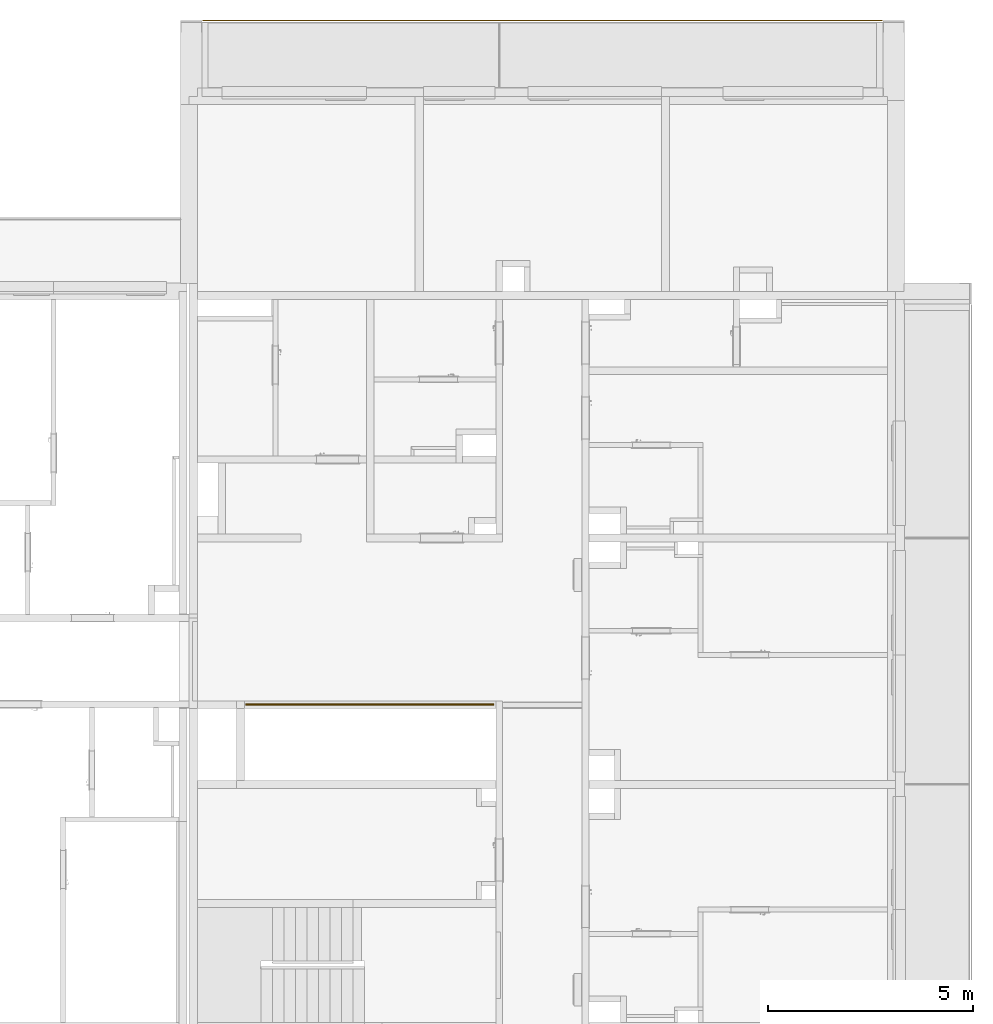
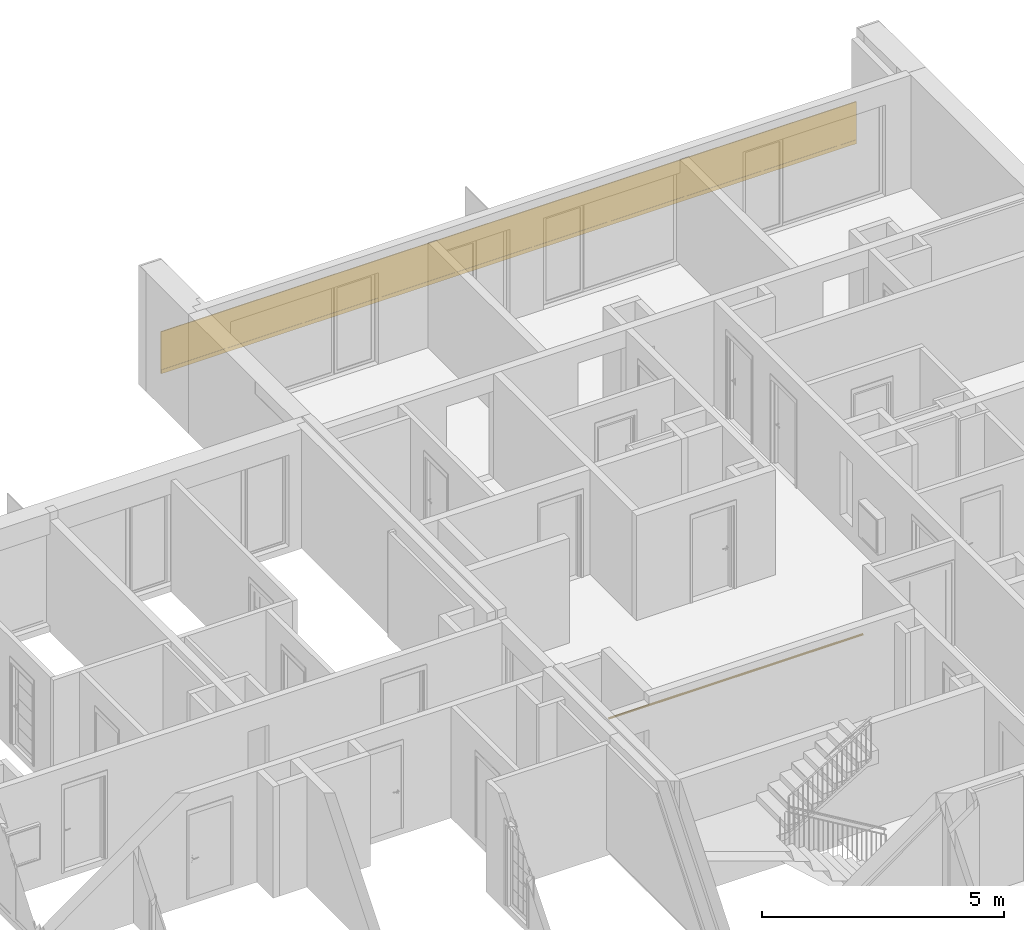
# One storey, part 7 of 64: 2 railings.
"""IFC2X3 building model written with IfcOpenShell, lengths in millimetres."""

from ifc_helpers import new_model, entity, si_unit, converted_unit, derived_unit, money_unit, direction, frame, origin_with_axes, place, context, subcontext, project, spatial, faceted_brep, material, material_list, type_object, element, save


model = new_model("IFC2X3")

# Units and contexts
model_context = context("Model", 3, precision=0.01, world=origin_with_axes(), true_north=direction((0.34421633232, 0.938890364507)))
body_context = subcontext(model_context, "Body", "Model", "MODEL_VIEW")
ifc_project = project(units=[si_unit("LENGTHUNIT", "METRE", prefix="MILLI"), si_unit("AREAUNIT", "SQUARE_METRE"), si_unit("VOLUMEUNIT", "CUBIC_METRE"), converted_unit("PLANEANGLEUNIT", "DEGREE", entity("IfcPlaneAngleMeasure", 0.0174532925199), si_unit("PLANEANGLEUNIT", "RADIAN"), dimensions=[0, 0, 0, 0, 0, 0, 0]), si_unit("SOLIDANGLEUNIT", "STERADIAN"), money_unit("USD"), converted_unit("TIMEUNIT", "Year", entity("IfcTimeMeasure", 31556926.0), si_unit("TIMEUNIT", "SECOND"), dimensions=[0, 0, 1, 0, 0, 0, 0]), si_unit("MASSUNIT", "GRAM", prefix="KILO"), si_unit("THERMODYNAMICTEMPERATUREUNIT", "DEGREE_CELSIUS"), si_unit("LUMINOUSINTENSITYUNIT", "LUMEN"), si_unit("ENERGYUNIT", "JOULE", prefix="MEGA"), derived_unit("THERMALCONDUCTANCEUNIT", [(si_unit("POWERUNIT", "WATT"), 1), (si_unit("LENGTHUNIT", "METRE"), -1), (si_unit("THERMODYNAMICTEMPERATUREUNIT", "KELVIN"), -1)]), derived_unit("SPECIFICHEATCAPACITYUNIT", [(si_unit("ENERGYUNIT", "JOULE"), 1), (si_unit("MASSUNIT", "GRAM", prefix="KILO"), -1), (si_unit("THERMODYNAMICTEMPERATUREUNIT", "KELVIN"), -1)]), derived_unit("MASSDENSITYUNIT", [(si_unit("MASSUNIT", "GRAM", prefix="KILO"), 1), (si_unit("VOLUMEUNIT", "CUBIC_METRE"), -1)])], contexts=[model_context])

# Site, building, storey
site_placement = place(None, origin_with_axes())
site = spatial("IfcSite", under=ifc_project, at=site_placement, Name="USTRONIE MORSKIE", CompositionType="ELEMENT")
building_placement = place(site_placement, origin_with_axes())
building = spatial("IfcBuilding", under=site, at=building_placement, Name="Budynek", CompositionType="ELEMENT")
storey_placement = place(building_placement, frame((0.0, 0.0, 7000.0), z_axis=(0.0, 0.0, 1.0), x_axis=(1.0, 0.0, 0.0)))
storey = spatial("IfcBuildingStorey", under=building, at=storey_placement, Name="PIĘTRO 2", CompositionType="ELEMENT", Elevation=7000.0)

# Railings
ifc_material_1 = material(Name="Szkło struktualne")
ifc_material_2 = material(Name="Profile aluminiowe")
ifc_material_list_1 = material_list([ifc_material_1, ifc_material_2])
railing_type = type_object("IfcRailingType", Name="Typ balustrady", PredefinedType="NOTDEFINED")
railing_1_placement = place(storey_placement, frame((409067.920919, 751396.199036, 30.0), z_axis=(0.0, 0.0, 1.0), x_axis=(1.0, 0.0, 0.0)))
element("IfcRailing", 1, at=railing_1_placement, inside=storey, type_object=railing_type, material=ifc_material_list_1, Name="BL1", PredefinedType="NOTDEFINED", context=body_context, shape_type="Brep", body=[
    faceted_brep([(16280.0, 9.99999999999, -100.0), (-280.0, 9.99999999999, -100.0), (-280.0, 9.99999999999, 950.0), (16280.0, 9.99999999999, 950.0), (-280.0, -9.99999999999, -100.0), (16280.0, -9.99999999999, -100.0), (-280.0, -9.99999999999, 950.0), (16280.0, -9.99999999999, 950.0)], [[[0, 1, 2, 3]], [[4, 1, 0, 5]], [[6, 2, 1, 4]], [[3, 2, 6, 7]], [[0, 3, 7, 5]], [[6, 4, 5, 7]]]),
    faceted_brep([(16280.0, -15.0, -5.0), (-280.0, -15.0, -5.0), (-280.0, -15.0, -105.0), (16280.0, -15.0, -105.0), (16280.0, -9.99999999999, -5.0), (-280.0, -9.99999999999, -5.0), (-280.0, -9.99999999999, -100.0), (-280.0, 9.99999999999, -100.0), (-280.0, 9.99999999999, -5.0), (-280.0, 15.0, -5.0), (-280.0, 15.0, -105.0), (16280.0, 15.0, -105.0), (16280.0, 15.0, -5.0), (16280.0, 9.99999999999, -5.0), (16280.0, 9.99999999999, -100.0), (16280.0, -9.99999999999, -100.0)], [[[0, 1, 2, 3]], [[1, 0, 4, 5]], [[6, 7, 8, 9, 10, 2, 1, 5]], [[10, 11, 3, 2]], [[11, 12, 13, 14, 15, 4, 0, 3]], [[15, 6, 5, 4]], [[7, 6, 15, 14]], [[8, 7, 14, 13]], [[9, 8, 13, 12]], [[11, 10, 9, 12]]]),
])
ifc_material_3 = material(Name="Stal nierdzewna")
ifc_material_list_2 = material_list([ifc_material_3, ifc_material_3, ifc_material_3])
railing_2_placement = place(storey_placement, frame((409867.915713, 734741.198985, 0.0), z_axis=(0.0, 0.0, 1.0), x_axis=(1.0, 0.0, 0.0)))
element("IfcRailing", 2, at=railing_2_placement, inside=storey, type_object=railing_type, material=ifc_material_list_2, Name="BL1", PredefinedType="NOTDEFINED", context=body_context, shape_type="Brep", body=[
    faceted_brep([(20.0, -25.0, 975.0), (20.0, -24.6201938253, 979.341204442), (-30.0, -24.6201938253, 979.341204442), (-30.0, -25.0, 975.0), (20.0, -24.6201938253, 970.658795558), (20.0, -23.4923155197, 966.449496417), (20.0, -21.6506350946, 962.5), (20.0, -19.151111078, 958.930309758), (20.0, -16.0696902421, 955.848888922), (20.0, -12.5, 953.349364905), (20.0, -8.55050358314, 951.50768448), (20.0, -4.34120444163, 950.379806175), (20.0, 0.0, 950.0), (20.0, 4.34120444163, 950.379806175), (20.0, 8.55050358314, 951.50768448), (20.0, 12.5, 953.349364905), (20.0, 16.0696902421, 955.848888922), (20.0, 19.151111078, 958.930309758), (20.0, 21.6506350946, 962.5), (20.0, 23.4923155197, 966.449496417), (20.0, 24.6201938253, 970.658795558), (20.0, 25.0, 975.0), (20.0, 24.6201938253, 979.341204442), (20.0, 23.4923155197, 983.550503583), (20.0, 21.6506350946, 987.5), (20.0, 19.151111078, 991.069690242), (20.0, 16.0696902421, 994.151111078), (20.0, 12.5, 996.650635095), (20.0, 8.55050358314, 998.49231552), (20.0, 4.34120444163, 999.620193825), (20.0, 0.0, 1000.0), (20.0, -4.34120444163, 999.620193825), (20.0, -8.55050358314, 998.49231552), (20.0, -12.5, 996.650635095), (20.0, -16.0696902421, 994.151111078), (20.0, -19.151111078, 991.069690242), (20.0, -21.6506350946, 987.5), (20.0, -23.4923155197, 983.550503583), (20.0, -15.0, 975.0), (20.0, -14.7721162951, 977.604722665), (20.0, -14.0953893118, 980.13030215), (20.0, -12.9903810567, 982.5), (20.0, -11.4906666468, 984.641814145), (20.0, -9.64181414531, 986.490666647), (20.0, -7.50000000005, 987.990381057), (20.0, -5.13030214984, 989.095389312), (20.0, -2.60472266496, 989.772116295), (20.0, 0.0, 990.0), (20.0, 2.60472266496, 989.772116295), (20.0, 5.13030214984, 989.095389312), (20.0, 7.50000000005, 987.990381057), (20.0, 9.64181414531, 986.490666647), (20.0, 11.4906666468, 984.641814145), (20.0, 12.9903810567, 982.5), (20.0, 14.0953893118, 980.13030215), (20.0, 14.7721162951, 977.604722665), (20.0, 15.0, 975.0), (20.0, 14.7721162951, 972.395277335), (20.0, 14.0953893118, 969.86969785), (20.0, 12.9903810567, 967.5), (20.0, 11.4906666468, 965.358185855), (20.0, 9.64181414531, 963.509333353), (20.0, 7.50000000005, 962.009618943), (20.0, 5.13030214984, 960.904610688), (20.0, 2.60472266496, 960.227883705), (20.0, 0.0, 960.0), (20.0, -2.60472266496, 960.227883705), (20.0, -5.13030214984, 960.904610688), (20.0, -7.50000000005, 962.009618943), (20.0, -9.64181414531, 963.509333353), (20.0, -11.4906666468, 965.358185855), (20.0, -12.9903810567, 967.5), (20.0, -14.0953893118, 969.86969785), (20.0, -14.7721162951, 972.395277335), (-30.0, -23.4923155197, 983.550503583), (-30.0, -21.6506350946, 987.5), (-30.0, -19.151111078, 991.069690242), (-30.0, -16.0696902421, 994.151111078), (-30.0, -12.5, 996.650635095), (-30.0, -8.55050358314, 998.49231552), (-30.0, -4.34120444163, 999.620193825), (-30.0, 0.0, 1000.0), (-30.0, 4.34120444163, 999.620193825), (-30.0, 8.55050358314, 998.49231552), (-30.0, 12.5, 996.650635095), (-30.0, 16.0696902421, 994.151111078), (-30.0, 19.151111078, 991.069690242), (-30.0, 21.6506350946, 987.5), (-30.0, 23.4923155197, 983.550503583), (-30.0, 24.6201938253, 979.341204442), (-30.0, 25.0, 975.0), (-30.0, 24.6201938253, 970.658795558), (-30.0, 23.4923155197, 966.449496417), (-30.0, 21.6506350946, 962.5), (-30.0, 19.151111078, 958.930309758), (-30.0, 16.0696902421, 955.848888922), (-30.0, 12.5, 953.349364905), (-30.0, 8.55050358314, 951.50768448), (-30.0, 4.34120444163, 950.379806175), (-30.0, 0.0, 950.0), (-30.0, -4.34120444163, 950.379806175), (-30.0, -8.55050358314, 951.50768448), (-30.0, -12.5, 953.349364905), (-30.0, -16.0696902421, 955.848888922), (-30.0, -19.151111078, 958.930309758), (-30.0, -21.6506350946, 962.5), (-30.0, -23.4923155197, 966.449496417), (-30.0, -24.6201938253, 970.658795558), (-30.0, -15.0, 975.0), (-30.0, -14.7721162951, 972.395277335), (-30.0, -14.0953893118, 969.86969785), (-30.0, -12.9903810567, 967.5), (-30.0, -11.4906666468, 965.358185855), (-30.0, -9.64181414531, 963.509333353), (-30.0, -7.50000000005, 962.009618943), (-30.0, -5.13030214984, 960.904610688), (-30.0, -2.60472266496, 960.227883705), (-30.0, 0.0, 960.0), (-30.0, 2.60472266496, 960.227883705), (-30.0, 5.13030214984, 960.904610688), (-30.0, 7.50000000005, 962.009618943), (-30.0, 9.64181414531, 963.509333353), (-30.0, 11.4906666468, 965.358185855), (-30.0, 12.9903810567, 967.5), (-30.0, 14.0953893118, 969.86969785), (-30.0, 14.7721162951, 972.395277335), (-30.0, 15.0, 975.0), (-30.0, 14.7721162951, 977.604722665), (-30.0, 14.0953893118, 980.13030215), (-30.0, 12.9903810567, 982.5), (-30.0, 11.4906666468, 984.641814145), (-30.0, 9.64181414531, 986.490666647), (-30.0, 7.50000000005, 987.990381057), (-30.0, 5.13030214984, 989.095389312), (-30.0, 2.60472266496, 989.772116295), (-30.0, 0.0, 990.0), (-30.0, -2.60472266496, 989.772116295), (-30.0, -5.13030214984, 989.095389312), (-30.0, -7.50000000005, 987.990381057), (-30.0, -9.64181414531, 986.490666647), (-30.0, -11.4906666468, 984.641814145), (-30.0, -12.9903810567, 982.5), (-30.0, -14.0953893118, 980.13030215), (-30.0, -14.7721162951, 977.604722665)], [[[0, 1, 2, 3]], [[0, 4, 5, 6, 7, 8, 9, 10, 11, 12, 13, 14, 15, 16, 17, 18, 19, 20, 21, 22, 23, 24, 25, 26, 27, 28, 29, 30, 31, 32, 33, 34, 35, 36, 37, 1], [38, 39, 40, 41, 42, 43, 44, 45, 46, 47, 48, 49, 50, 51, 52, 53, 54, 55, 56, 57, 58, 59, 60, 61, 62, 63, 64, 65, 66, 67, 68, 69, 70, 71, 72, 73]], [[1, 37, 74, 2]], [[3, 2, 74, 75, 76, 77, 78, 79, 80, 81, 82, 83, 84, 85, 86, 87, 88, 89, 90, 91, 92, 93, 94, 95, 96, 97, 98, 99, 100, 101, 102, 103, 104, 105, 106, 107], [108, 109, 110, 111, 112, 113, 114, 115, 116, 117, 118, 119, 120, 121, 122, 123, 124, 125, 126, 127, 128, 129, 130, 131, 132, 133, 134, 135, 136, 137, 138, 139, 140, 141, 142, 143]], [[4, 0, 3, 107]], [[5, 4, 107, 106]], [[6, 5, 106, 105]], [[7, 6, 105, 104]], [[8, 7, 104, 103]], [[9, 8, 103, 102]], [[10, 9, 102, 101]], [[11, 10, 101, 100]], [[12, 11, 100, 99]], [[13, 12, 99, 98]], [[14, 13, 98, 97]], [[15, 14, 97, 96]], [[16, 15, 96, 95]], [[17, 16, 95, 94]], [[18, 17, 94, 93]], [[19, 18, 93, 92]], [[20, 19, 92, 91]], [[21, 20, 91, 90]], [[22, 21, 90, 89]], [[23, 22, 89, 88]], [[24, 23, 88, 87]], [[25, 24, 87, 86]], [[26, 25, 86, 85]], [[27, 26, 85, 84]], [[28, 27, 84, 83]], [[29, 28, 83, 82]], [[30, 29, 82, 81]], [[31, 30, 81, 80]], [[32, 31, 80, 79]], [[33, 32, 79, 78]], [[34, 33, 78, 77]], [[35, 34, 77, 76]], [[36, 35, 76, 75]], [[37, 36, 75, 74]], [[39, 38, 108, 143]], [[40, 39, 143, 142]], [[41, 40, 142, 141]], [[42, 41, 141, 140]], [[43, 42, 140, 139]], [[44, 43, 139, 138]], [[45, 44, 138, 137]], [[46, 45, 137, 136]], [[47, 46, 136, 135]], [[48, 47, 135, 134]], [[49, 48, 134, 133]], [[50, 49, 133, 132]], [[51, 50, 132, 131]], [[52, 51, 131, 130]], [[53, 52, 130, 129]], [[54, 53, 129, 128]], [[55, 54, 128, 127]], [[56, 55, 127, 126]], [[57, 56, 126, 125]], [[58, 57, 125, 124]], [[59, 58, 124, 123]], [[60, 59, 123, 122]], [[61, 60, 122, 121]], [[62, 61, 121, 120]], [[63, 62, 120, 119]], [[64, 63, 119, 118]], [[65, 64, 118, 117]], [[66, 65, 117, 116]], [[67, 66, 116, 115]], [[68, 67, 115, 114]], [[69, 68, 114, 113]], [[70, 69, 113, 112]], [[71, 70, 112, 111]], [[72, 71, 111, 110]], [[73, 72, 110, 109]], [[38, 73, 109, 108]]]),
    faceted_brep([(5970.00520575, 25.0, 975.0), (5970.00520575, 24.6201938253, 979.341204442), (6020.00520575, 24.6201938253, 979.341204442), (6020.00520575, 25.0, 975.0), (5970.00520575, 24.6201938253, 970.658795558), (5970.00520575, 23.4923155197, 966.449496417), (5970.00520575, 21.6506350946, 962.5), (5970.00520575, 19.151111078, 958.930309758), (5970.00520575, 16.0696902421, 955.848888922), (5970.00520575, 12.5, 953.349364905), (5970.00520575, 8.55050358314, 951.50768448), (5970.00520575, 4.34120444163, 950.379806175), (5970.00520575, 0.0, 950.0), (5970.00520575, -4.34120444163, 950.379806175), (5970.00520575, -8.55050358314, 951.50768448), (5970.00520575, -12.5, 953.349364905), (5970.00520575, -16.0696902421, 955.848888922), (5970.00520575, -19.151111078, 958.930309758), (5970.00520575, -21.6506350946, 962.5), (5970.00520575, -23.4923155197, 966.449496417), (5970.00520575, -24.6201938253, 970.658795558), (5970.00520575, -25.0, 975.0), (5970.00520575, -24.6201938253, 979.341204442), (5970.00520575, -23.4923155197, 983.550503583), (5970.00520575, -21.6506350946, 987.5), (5970.00520575, -19.151111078, 991.069690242), (5970.00520575, -16.0696902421, 994.151111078), (5970.00520575, -12.5, 996.650635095), (5970.00520575, -8.55050358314, 998.49231552), (5970.00520575, -4.34120444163, 999.620193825), (5970.00520575, 0.0, 1000.0), (5970.00520575, 4.34120444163, 999.620193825), (5970.00520575, 8.55050358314, 998.49231552), (5970.00520575, 12.5, 996.650635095), (5970.00520575, 16.0696902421, 994.151111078), (5970.00520575, 19.151111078, 991.069690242), (5970.00520575, 21.6506350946, 987.5), (5970.00520575, 23.4923155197, 983.550503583), (5970.00520575, 15.0, 975.0), (5970.00520575, 14.7721162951, 977.604722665), (5970.00520575, 14.0953893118, 980.13030215), (5970.00520575, 12.9903810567, 982.5), (5970.00520575, 11.4906666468, 984.641814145), (5970.00520575, 9.64181414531, 986.490666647), (5970.00520575, 7.50000000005, 987.990381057), (5970.00520575, 5.13030214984, 989.095389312), (5970.00520575, 2.60472266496, 989.772116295), (5970.00520575, 0.0, 990.0), (5970.00520575, -2.60472266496, 989.772116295), (5970.00520575, -5.13030214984, 989.095389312), (5970.00520575, -7.50000000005, 987.990381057), (5970.00520575, -9.64181414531, 986.490666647), (5970.00520575, -11.4906666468, 984.641814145), (5970.00520575, -12.9903810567, 982.5), (5970.00520575, -14.0953893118, 980.13030215), (5970.00520575, -14.7721162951, 977.604722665), (5970.00520575, -15.0, 975.0), (5970.00520575, -14.7721162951, 972.395277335), (5970.00520575, -14.0953893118, 969.86969785), (5970.00520575, -12.9903810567, 967.5), (5970.00520575, -11.4906666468, 965.358185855), (5970.00520575, -9.64181414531, 963.509333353), (5970.00520575, -7.50000000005, 962.009618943), (5970.00520575, -5.13030214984, 960.904610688), (5970.00520575, -2.60472266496, 960.227883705), (5970.00520575, 0.0, 960.0), (5970.00520575, 2.60472266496, 960.227883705), (5970.00520575, 5.13030214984, 960.904610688), (5970.00520575, 7.50000000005, 962.009618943), (5970.00520575, 9.64181414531, 963.509333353), (5970.00520575, 11.4906666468, 965.358185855), (5970.00520575, 12.9903810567, 967.5), (5970.00520575, 14.0953893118, 969.86969785), (5970.00520575, 14.7721162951, 972.395277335), (6020.00520575, 23.4923155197, 983.550503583), (6020.00520575, 21.6506350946, 987.5), (6020.00520575, 19.151111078, 991.069690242), (6020.00520575, 16.0696902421, 994.151111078), (6020.00520575, 12.5, 996.650635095), (6020.00520575, 8.55050358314, 998.49231552), (6020.00520575, 4.34120444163, 999.620193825), (6020.00520575, 0.0, 1000.0), (6020.00520575, -4.34120444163, 999.620193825), (6020.00520575, -8.55050358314, 998.49231552), (6020.00520575, -12.5, 996.650635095), (6020.00520575, -16.0696902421, 994.151111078), (6020.00520575, -19.151111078, 991.069690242), (6020.00520575, -21.6506350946, 987.5), (6020.00520575, -23.4923155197, 983.550503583), (6020.00520575, -24.6201938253, 979.341204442), (6020.00520575, -25.0, 975.0), (6020.00520575, -24.6201938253, 970.658795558), (6020.00520575, -23.4923155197, 966.449496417), (6020.00520575, -21.6506350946, 962.5), (6020.00520575, -19.151111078, 958.930309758), (6020.00520575, -16.0696902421, 955.848888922), (6020.00520575, -12.5, 953.349364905), (6020.00520575, -8.55050358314, 951.50768448), (6020.00520575, -4.34120444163, 950.379806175), (6020.00520575, 0.0, 950.0), (6020.00520575, 4.34120444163, 950.379806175), (6020.00520575, 8.55050358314, 951.50768448), (6020.00520575, 12.5, 953.349364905), (6020.00520575, 16.0696902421, 955.848888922), (6020.00520575, 19.151111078, 958.930309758), (6020.00520575, 21.6506350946, 962.5), (6020.00520575, 23.4923155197, 966.449496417), (6020.00520575, 24.6201938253, 970.658795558), (6020.00520575, 15.0, 975.0), (6020.00520575, 14.7721162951, 972.395277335), (6020.00520575, 14.0953893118, 969.86969785), (6020.00520575, 12.9903810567, 967.5), (6020.00520575, 11.4906666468, 965.358185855), (6020.00520575, 9.64181414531, 963.509333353), (6020.00520575, 7.50000000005, 962.009618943), (6020.00520575, 5.13030214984, 960.904610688), (6020.00520575, 2.60472266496, 960.227883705), (6020.00520575, 0.0, 960.0), (6020.00520575, -2.60472266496, 960.227883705), (6020.00520575, -5.13030214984, 960.904610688), (6020.00520575, -7.50000000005, 962.009618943), (6020.00520575, -9.64181414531, 963.509333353), (6020.00520575, -11.4906666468, 965.358185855), (6020.00520575, -12.9903810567, 967.5), (6020.00520575, -14.0953893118, 969.86969785), (6020.00520575, -14.7721162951, 972.395277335), (6020.00520575, -15.0, 975.0), (6020.00520575, -14.7721162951, 977.604722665), (6020.00520575, -14.0953893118, 980.13030215), (6020.00520575, -12.9903810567, 982.5), (6020.00520575, -11.4906666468, 984.641814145), (6020.00520575, -9.64181414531, 986.490666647), (6020.00520575, -7.50000000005, 987.990381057), (6020.00520575, -5.13030214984, 989.095389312), (6020.00520575, -2.60472266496, 989.772116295), (6020.00520575, 0.0, 990.0), (6020.00520575, 2.60472266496, 989.772116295), (6020.00520575, 5.13030214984, 989.095389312), (6020.00520575, 7.50000000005, 987.990381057), (6020.00520575, 9.64181414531, 986.490666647), (6020.00520575, 11.4906666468, 984.641814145), (6020.00520575, 12.9903810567, 982.5), (6020.00520575, 14.0953893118, 980.13030215), (6020.00520575, 14.7721162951, 977.604722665)], [[[0, 1, 2, 3]], [[0, 4, 5, 6, 7, 8, 9, 10, 11, 12, 13, 14, 15, 16, 17, 18, 19, 20, 21, 22, 23, 24, 25, 26, 27, 28, 29, 30, 31, 32, 33, 34, 35, 36, 37, 1], [38, 39, 40, 41, 42, 43, 44, 45, 46, 47, 48, 49, 50, 51, 52, 53, 54, 55, 56, 57, 58, 59, 60, 61, 62, 63, 64, 65, 66, 67, 68, 69, 70, 71, 72, 73]], [[1, 37, 74, 2]], [[3, 2, 74, 75, 76, 77, 78, 79, 80, 81, 82, 83, 84, 85, 86, 87, 88, 89, 90, 91, 92, 93, 94, 95, 96, 97, 98, 99, 100, 101, 102, 103, 104, 105, 106, 107], [108, 109, 110, 111, 112, 113, 114, 115, 116, 117, 118, 119, 120, 121, 122, 123, 124, 125, 126, 127, 128, 129, 130, 131, 132, 133, 134, 135, 136, 137, 138, 139, 140, 141, 142, 143]], [[4, 0, 3, 107]], [[5, 4, 107, 106]], [[6, 5, 106, 105]], [[7, 6, 105, 104]], [[8, 7, 104, 103]], [[9, 8, 103, 102]], [[10, 9, 102, 101]], [[11, 10, 101, 100]], [[12, 11, 100, 99]], [[13, 12, 99, 98]], [[14, 13, 98, 97]], [[15, 14, 97, 96]], [[16, 15, 96, 95]], [[17, 16, 95, 94]], [[18, 17, 94, 93]], [[19, 18, 93, 92]], [[20, 19, 92, 91]], [[21, 20, 91, 90]], [[22, 21, 90, 89]], [[23, 22, 89, 88]], [[24, 23, 88, 87]], [[25, 24, 87, 86]], [[26, 25, 86, 85]], [[27, 26, 85, 84]], [[28, 27, 84, 83]], [[29, 28, 83, 82]], [[30, 29, 82, 81]], [[31, 30, 81, 80]], [[32, 31, 80, 79]], [[33, 32, 79, 78]], [[34, 33, 78, 77]], [[35, 34, 77, 76]], [[36, 35, 76, 75]], [[37, 36, 75, 74]], [[39, 38, 108, 143]], [[40, 39, 143, 142]], [[41, 40, 142, 141]], [[42, 41, 141, 140]], [[43, 42, 140, 139]], [[44, 43, 139, 138]], [[45, 44, 138, 137]], [[46, 45, 137, 136]], [[47, 46, 136, 135]], [[48, 47, 135, 134]], [[49, 48, 134, 133]], [[50, 49, 133, 132]], [[51, 50, 132, 131]], [[52, 51, 131, 130]], [[53, 52, 130, 129]], [[54, 53, 129, 128]], [[55, 54, 128, 127]], [[56, 55, 127, 126]], [[57, 56, 126, 125]], [[58, 57, 125, 124]], [[59, 58, 124, 123]], [[60, 59, 123, 122]], [[61, 60, 122, 121]], [[62, 61, 121, 120]], [[63, 62, 120, 119]], [[64, 63, 119, 118]], [[65, 64, 118, 117]], [[66, 65, 117, 116]], [[67, 66, 116, 115]], [[68, 67, 115, 114]], [[69, 68, 114, 113]], [[70, 69, 113, 112]], [[71, 70, 112, 111]], [[72, 71, 111, 110]], [[73, 72, 110, 109]], [[38, 73, 109, 108]]]),
    faceted_brep([(20.0, 25.0, 975.0), (20.0, 24.6201938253, 979.341204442), (5970.00520575, 24.6201938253, 979.341204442), (5970.00520575, 25.0, 975.0), (20.0, 24.6201938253, 970.658795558), (20.0, 23.4923155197, 966.449496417), (20.0, 21.6506350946, 962.5), (20.0, 19.151111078, 958.930309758), (20.0, 16.0696902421, 955.848888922), (20.0, 12.5, 953.349364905), (20.0, 8.55050358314, 951.50768448), (20.0, 4.34120444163, 950.379806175), (20.0, 0.0, 950.0), (20.0, -4.34120444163, 950.379806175), (20.0, -8.55050358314, 951.50768448), (20.0, -12.5, 953.349364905), (20.0, -16.0696902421, 955.848888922), (20.0, -19.151111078, 958.930309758), (20.0, -21.6506350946, 962.5), (20.0, -23.4923155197, 966.449496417), (20.0, -24.6201938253, 970.658795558), (20.0, -25.0, 975.0), (20.0, -24.6201938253, 979.341204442), (20.0, -23.4923155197, 983.550503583), (20.0, -21.6506350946, 987.5), (20.0, -19.151111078, 991.069690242), (20.0, -16.0696902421, 994.151111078), (20.0, -12.5, 996.650635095), (20.0, -8.55050358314, 998.49231552), (20.0, -4.34120444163, 999.620193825), (20.0, 0.0, 1000.0), (20.0, 4.34120444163, 999.620193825), (20.0, 8.55050358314, 998.49231552), (20.0, 12.5, 996.650635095), (20.0, 16.0696902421, 994.151111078), (20.0, 19.151111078, 991.069690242), (20.0, 21.6506350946, 987.5), (20.0, 23.4923155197, 983.550503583), (20.0, 15.0, 975.0), (20.0, 14.7721162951, 977.604722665), (20.0, 14.0953893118, 980.13030215), (20.0, 12.9903810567, 982.5), (20.0, 11.4906666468, 984.641814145), (20.0, 9.64181414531, 986.490666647), (20.0, 7.50000000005, 987.990381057), (20.0, 5.13030214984, 989.095389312), (20.0, 2.60472266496, 989.772116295), (20.0, 0.0, 990.0), (20.0, -2.60472266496, 989.772116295), (20.0, -5.13030214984, 989.095389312), (20.0, -7.50000000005, 987.990381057), (20.0, -9.64181414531, 986.490666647), (20.0, -11.4906666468, 984.641814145), (20.0, -12.9903810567, 982.5), (20.0, -14.0953893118, 980.13030215), (20.0, -14.7721162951, 977.604722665), (20.0, -15.0, 975.0), (20.0, -14.7721162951, 972.395277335), (20.0, -14.0953893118, 969.86969785), (20.0, -12.9903810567, 967.5), (20.0, -11.4906666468, 965.358185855), (20.0, -9.64181414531, 963.509333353), (20.0, -7.50000000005, 962.009618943), (20.0, -5.13030214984, 960.904610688), (20.0, -2.60472266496, 960.227883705), (20.0, 0.0, 960.0), (20.0, 2.60472266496, 960.227883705), (20.0, 5.13030214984, 960.904610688), (20.0, 7.50000000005, 962.009618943), (20.0, 9.64181414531, 963.509333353), (20.0, 11.4906666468, 965.358185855), (20.0, 12.9903810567, 967.5), (20.0, 14.0953893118, 969.86969785), (20.0, 14.7721162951, 972.395277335), (5970.00520575, 23.4923155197, 983.550503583), (5970.00520575, 21.6506350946, 987.5), (5970.00520575, 19.151111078, 991.069690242), (5970.00520575, 16.0696902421, 994.151111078), (5970.00520575, 12.5, 996.650635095), (5970.00520575, 8.55050358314, 998.49231552), (5970.00520575, 4.34120444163, 999.620193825), (5970.00520575, 0.0, 1000.0), (5970.00520575, -4.34120444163, 999.620193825), (5970.00520575, -8.55050358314, 998.49231552), (5970.00520575, -12.5, 996.650635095), (5970.00520575, -16.0696902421, 994.151111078), (5970.00520575, -19.151111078, 991.069690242), (5970.00520575, -21.6506350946, 987.5), (5970.00520575, -23.4923155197, 983.550503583), (5970.00520575, -24.6201938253, 979.341204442), (5970.00520575, -25.0, 975.0), (5970.00520575, -24.6201938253, 970.658795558), (5970.00520575, -23.4923155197, 966.449496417), (5970.00520575, -21.6506350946, 962.5), (5970.00520575, -19.151111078, 958.930309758), (5970.00520575, -16.0696902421, 955.848888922), (5970.00520575, -12.5, 953.349364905), (5970.00520575, -8.55050358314, 951.50768448), (5970.00520575, -4.34120444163, 950.379806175), (5970.00520575, 0.0, 950.0), (5970.00520575, 4.34120444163, 950.379806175), (5970.00520575, 8.55050358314, 951.50768448), (5970.00520575, 12.5, 953.349364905), (5970.00520575, 16.0696902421, 955.848888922), (5970.00520575, 19.151111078, 958.930309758), (5970.00520575, 21.6506350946, 962.5), (5970.00520575, 23.4923155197, 966.449496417), (5970.00520575, 24.6201938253, 970.658795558), (5970.00520575, 15.0, 975.0), (5970.00520575, 14.7721162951, 972.395277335), (5970.00520575, 14.0953893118, 969.86969785), (5970.00520575, 12.9903810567, 967.5), (5970.00520575, 11.4906666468, 965.358185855), (5970.00520575, 9.64181414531, 963.509333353), (5970.00520575, 7.50000000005, 962.009618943), (5970.00520575, 5.13030214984, 960.904610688), (5970.00520575, 2.60472266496, 960.227883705), (5970.00520575, 0.0, 960.0), (5970.00520575, -2.60472266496, 960.227883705), (5970.00520575, -5.13030214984, 960.904610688), (5970.00520575, -7.50000000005, 962.009618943), (5970.00520575, -9.64181414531, 963.509333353), (5970.00520575, -11.4906666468, 965.358185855), (5970.00520575, -12.9903810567, 967.5), (5970.00520575, -14.0953893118, 969.86969785), (5970.00520575, -14.7721162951, 972.395277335), (5970.00520575, -15.0, 975.0), (5970.00520575, -14.7721162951, 977.604722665), (5970.00520575, -14.0953893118, 980.13030215), (5970.00520575, -12.9903810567, 982.5), (5970.00520575, -11.4906666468, 984.641814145), (5970.00520575, -9.64181414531, 986.490666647), (5970.00520575, -7.50000000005, 987.990381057), (5970.00520575, -5.13030214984, 989.095389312), (5970.00520575, -2.60472266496, 989.772116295), (5970.00520575, 0.0, 990.0), (5970.00520575, 2.60472266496, 989.772116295), (5970.00520575, 5.13030214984, 989.095389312), (5970.00520575, 7.50000000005, 987.990381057), (5970.00520575, 9.64181414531, 986.490666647), (5970.00520575, 11.4906666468, 984.641814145), (5970.00520575, 12.9903810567, 982.5), (5970.00520575, 14.0953893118, 980.13030215), (5970.00520575, 14.7721162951, 977.604722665)], [[[0, 1, 2, 3]], [[0, 4, 5, 6, 7, 8, 9, 10, 11, 12, 13, 14, 15, 16, 17, 18, 19, 20, 21, 22, 23, 24, 25, 26, 27, 28, 29, 30, 31, 32, 33, 34, 35, 36, 37, 1], [38, 39, 40, 41, 42, 43, 44, 45, 46, 47, 48, 49, 50, 51, 52, 53, 54, 55, 56, 57, 58, 59, 60, 61, 62, 63, 64, 65, 66, 67, 68, 69, 70, 71, 72, 73]], [[1, 37, 74, 2]], [[3, 2, 74, 75, 76, 77, 78, 79, 80, 81, 82, 83, 84, 85, 86, 87, 88, 89, 90, 91, 92, 93, 94, 95, 96, 97, 98, 99, 100, 101, 102, 103, 104, 105, 106, 107], [108, 109, 110, 111, 112, 113, 114, 115, 116, 117, 118, 119, 120, 121, 122, 123, 124, 125, 126, 127, 128, 129, 130, 131, 132, 133, 134, 135, 136, 137, 138, 139, 140, 141, 142, 143]], [[4, 0, 3, 107]], [[5, 4, 107, 106]], [[6, 5, 106, 105]], [[7, 6, 105, 104]], [[8, 7, 104, 103]], [[9, 8, 103, 102]], [[10, 9, 102, 101]], [[11, 10, 101, 100]], [[12, 11, 100, 99]], [[13, 12, 99, 98]], [[14, 13, 98, 97]], [[15, 14, 97, 96]], [[16, 15, 96, 95]], [[17, 16, 95, 94]], [[18, 17, 94, 93]], [[19, 18, 93, 92]], [[20, 19, 92, 91]], [[21, 20, 91, 90]], [[22, 21, 90, 89]], [[23, 22, 89, 88]], [[24, 23, 88, 87]], [[25, 24, 87, 86]], [[26, 25, 86, 85]], [[27, 26, 85, 84]], [[28, 27, 84, 83]], [[29, 28, 83, 82]], [[30, 29, 82, 81]], [[31, 30, 81, 80]], [[32, 31, 80, 79]], [[33, 32, 79, 78]], [[34, 33, 78, 77]], [[35, 34, 77, 76]], [[36, 35, 76, 75]], [[37, 36, 75, 74]], [[39, 38, 108, 143]], [[40, 39, 143, 142]], [[41, 40, 142, 141]], [[42, 41, 141, 140]], [[43, 42, 140, 139]], [[44, 43, 139, 138]], [[45, 44, 138, 137]], [[46, 45, 137, 136]], [[47, 46, 136, 135]], [[48, 47, 135, 134]], [[49, 48, 134, 133]], [[50, 49, 133, 132]], [[51, 50, 132, 131]], [[52, 51, 131, 130]], [[53, 52, 130, 129]], [[54, 53, 129, 128]], [[55, 54, 128, 127]], [[56, 55, 127, 126]], [[57, 56, 126, 125]], [[58, 57, 125, 124]], [[59, 58, 124, 123]], [[60, 59, 123, 122]], [[61, 60, 122, 121]], [[62, 61, 121, 120]], [[63, 62, 120, 119]], [[64, 63, 119, 118]], [[65, 64, 118, 117]], [[66, 65, 117, 116]], [[67, 66, 116, 115]], [[68, 67, 115, 114]], [[69, 68, 114, 113]], [[70, 69, 113, 112]], [[71, 70, 112, 111]], [[72, 71, 111, 110]], [[73, 72, 110, 109]], [[38, 73, 109, 108]]]),
])

save(model, "model.ifc")
